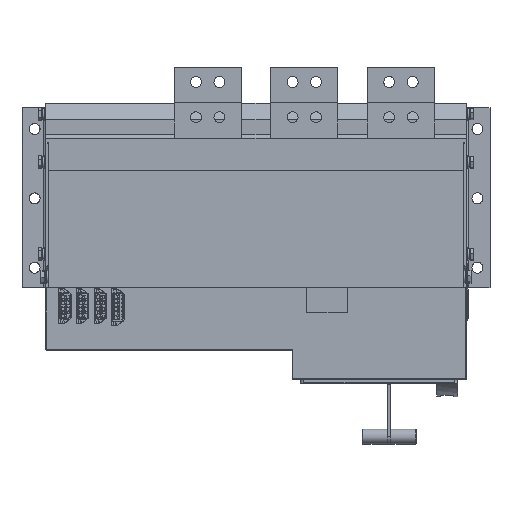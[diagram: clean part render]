
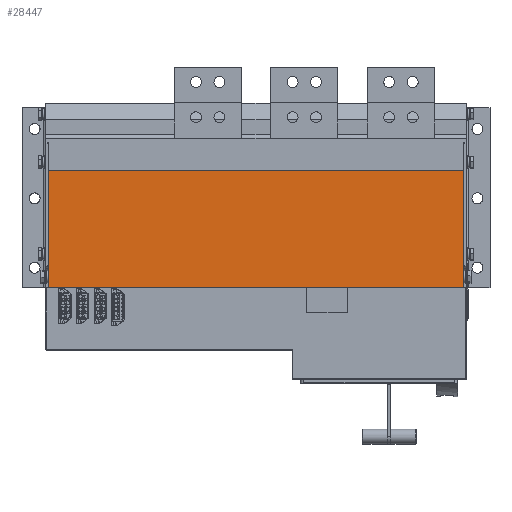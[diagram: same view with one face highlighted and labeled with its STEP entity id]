
A CAD part, top view. The second image highlights one B-rep face of the part: STEP entity #28447.
In plain terms, the highlighted planar face has unit normal (0, 0, 1).
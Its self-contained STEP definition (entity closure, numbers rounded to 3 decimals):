
#1872 = VERTEX_POINT ( 'NONE', #112290 ) ;
#5818 = DIRECTION ( 'NONE',  ( 0., -1., 0. ) ) ;
#6830 = CARTESIAN_POINT ( 'NONE',  ( 33.662, 0., 224.963 ) ) ;
#9559 = DIRECTION ( 'NONE',  ( 1., 0., 0. ) ) ;
#28447 = ADVANCED_FACE ( 'NONE', ( #171071 ), #159618, .T. ) ;
#32959 = EDGE_CURVE ( 'NONE', #91536, #67859, #137818, .T. ) ;
#34452 = EDGE_CURVE ( 'NONE', #1872, #67859, #77926, .T. ) ;
#45593 = VECTOR ( 'NONE', #5818, 1000. ) ;
#51065 = CARTESIAN_POINT ( 'NONE',  ( 33.662, 494., 224.963 ) ) ;
#51473 = CARTESIAN_POINT ( 'NONE',  ( 0., 0., 224.963 ) ) ;
#52459 = ORIENTED_EDGE ( 'NONE', *, *, #180185, .F. ) ;
#61434 = ORIENTED_EDGE ( 'NONE', *, *, #142707, .T. ) ;
#63275 = VECTOR ( 'NONE', #64741, 1000. ) ;
#64741 = DIRECTION ( 'NONE',  ( 0., -1., 0. ) ) ;
#67859 = VERTEX_POINT ( 'NONE', #119628 ) ;
#68381 = CARTESIAN_POINT ( 'NONE',  ( 0., 494., 224.963 ) ) ;
#75302 = VERTEX_POINT ( 'NONE', #51065 ) ;
#77926 = LINE ( 'NONE', #135831, #45593 ) ;
#85275 = DIRECTION ( 'NONE',  ( 1., 0., 0. ) ) ;
#91536 = VERTEX_POINT ( 'NONE', #128819 ) ;
#102616 = CARTESIAN_POINT ( 'NONE',  ( 33.662, 0., 224.963 ) ) ;
#110790 = ORIENTED_EDGE ( 'NONE', *, *, #34452, .F. ) ;
#112290 = CARTESIAN_POINT ( 'NONE',  ( 173.662, 494., 224.963 ) ) ;
#118832 = ORIENTED_EDGE ( 'NONE', *, *, #32959, .T. ) ;
#119628 = CARTESIAN_POINT ( 'NONE',  ( 173.662, 0., 224.963 ) ) ;
#128819 = CARTESIAN_POINT ( 'NONE',  ( 33.662, 0., 224.963 ) ) ;
#132678 = AXIS2_PLACEMENT_3D ( 'NONE', #102616, #160578, #142609 ) ;
#135831 = CARTESIAN_POINT ( 'NONE',  ( 173.662, 0., 224.963 ) ) ;
#136875 = LINE ( 'NONE', #6830, #63275 ) ;
#137818 = LINE ( 'NONE', #51473, #146778 ) ;
#140857 = VECTOR ( 'NONE', #9559, 1000. ) ;
#142609 = DIRECTION ( 'NONE',  ( 1., 0., 0. ) ) ;
#142707 = EDGE_CURVE ( 'NONE', #75302, #91536, #136875, .T. ) ;
#146778 = VECTOR ( 'NONE', #85275, 1000. ) ;
#158130 = EDGE_LOOP ( 'NONE', ( #110790, #52459, #61434, #118832 ) ) ;
#159618 = PLANE ( 'NONE',  #132678 ) ;
#160578 = DIRECTION ( 'NONE',  ( 0., 0., 1. ) ) ;
#168075 = LINE ( 'NONE', #68381, #140857 ) ;
#171071 = FACE_OUTER_BOUND ( 'NONE', #158130, .T. ) ;
#180185 = EDGE_CURVE ( 'NONE', #75302, #1872, #168075, .T. ) ;
